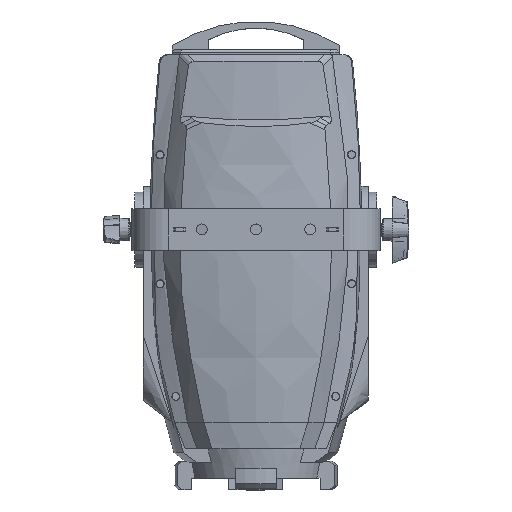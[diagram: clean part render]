
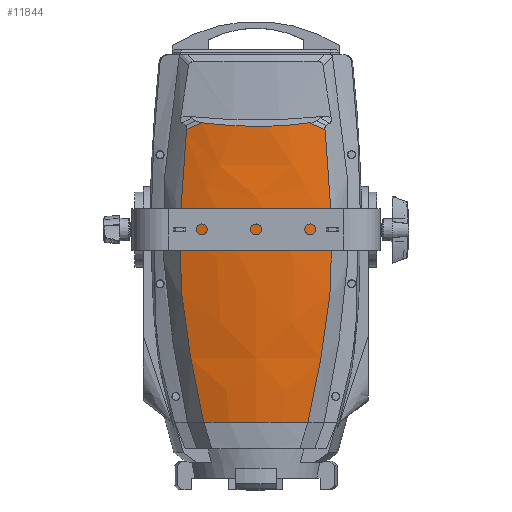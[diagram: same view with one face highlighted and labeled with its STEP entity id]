
A CAD part, top view. The second image highlights one B-rep face of the part: STEP entity #11844.
In plain terms, the highlighted free-form (B-spline) face has degree [3, 3] with [10, 6] control points.
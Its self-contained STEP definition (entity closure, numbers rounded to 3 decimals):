
#200=B_SPLINE_SURFACE_WITH_KNOTS('',3,3,((#18623,#18624,#18625,#18626,#18627,
#18628),(#18629,#18630,#18631,#18632,#18633,#18634),(#18635,#18636,#18637,
#18638,#18639,#18640),(#18641,#18642,#18643,#18644,#18645,#18646),(#18647,
#18648,#18649,#18650,#18651,#18652),(#18653,#18654,#18655,#18656,#18657,
#18658),(#18659,#18660,#18661,#18662,#18663,#18664),(#18665,#18666,#18667,
#18668,#18669,#18670),(#18671,#18672,#18673,#18674,#18675,#18676),(#18677,
#18678,#18679,#18680,#18681,#18682)),.UNSPECIFIED.,.F.,.F.,.F.,(4,2,2,2,
4),(4,1,1,4),(0.,0.25,0.5,0.75,1.),(0.199,0.399,
0.643,1.),.UNSPECIFIED.);
#599=B_SPLINE_CURVE_WITH_KNOTS('',3,(#17101,#17102,#17103,#17104),
 .UNSPECIFIED.,.F.,.F.,(4,4),(0.,0.02),.UNSPECIFIED.);
#600=B_SPLINE_CURVE_WITH_KNOTS('',3,(#17106,#17107,#17108,#17109,#17110,
#17111,#17112,#17113,#17114,#17115),.UNSPECIFIED.,.F.,.F.,(4,1,1,1,1,1,
1,4),(0.521,0.554,0.57,0.579,
0.587,0.603,0.62,0.653),
 .UNSPECIFIED.);
#606=B_SPLINE_CURVE_WITH_KNOTS('',3,(#17173,#17174,#17175,#17176),
 .UNSPECIFIED.,.F.,.F.,(4,4),(0.,0.02),
 .UNSPECIFIED.);
#691=B_SPLINE_CURVE_WITH_KNOTS('',3,(#18612,#18613,#18614,#18615,#18616,
#18617),.UNSPECIFIED.,.F.,.F.,(4,1,1,4),(0.,0.399,0.643,
1.),.UNSPECIFIED.);
#692=B_SPLINE_CURVE_WITH_KNOTS('',3,(#18619,#18620,#18621,#18622),
 .UNSPECIFIED.,.F.,.F.,(4,4),(0.222,0.233),
 .UNSPECIFIED.);
#693=B_SPLINE_CURVE_WITH_KNOTS('',3,(#18683,#18684,#18685,#18686),
 .UNSPECIFIED.,.F.,.F.,(4,4),(0.222,0.233),
 .UNSPECIFIED.);
#694=B_SPLINE_CURVE_WITH_KNOTS('',3,(#18690,#18691,#18692,#18693,#18694,
#18695),.UNSPECIFIED.,.F.,.F.,(4,1,1,4),(0.,0.399,0.643,
1.),.UNSPECIFIED.);
#1389=CIRCLE('',#12838,221.514);
#2306=ORIENTED_EDGE('',*,*,#5735,.T.);
#2307=ORIENTED_EDGE('',*,*,#5601,.T.);
#2308=ORIENTED_EDGE('',*,*,#5594,.T.);
#2309=ORIENTED_EDGE('',*,*,#5593,.T.);
#2310=ORIENTED_EDGE('',*,*,#5734,.F.);
#2311=ORIENTED_EDGE('',*,*,#5733,.T.);
#2312=ORIENTED_EDGE('',*,*,#5736,.T.);
#2313=ORIENTED_EDGE('',*,*,#5737,.F.);
#5593=EDGE_CURVE('',#7365,#7366,#599,.T.);
#5594=EDGE_CURVE('',#7367,#7365,#600,.F.);
#5601=EDGE_CURVE('',#7372,#7367,#606,.T.);
#5733=EDGE_CURVE('',#7454,#7453,#691,.T.);
#5734=EDGE_CURVE('',#7454,#7366,#692,.F.);
#5735=EDGE_CURVE('',#7455,#7372,#693,.F.);
#5736=EDGE_CURVE('',#7453,#7456,#1389,.F.);
#5737=EDGE_CURVE('',#7455,#7456,#694,.T.);
#7365=VERTEX_POINT('',#17092);
#7366=VERTEX_POINT('',#17100);
#7367=VERTEX_POINT('',#17116);
#7372=VERTEX_POINT('',#17168);
#7453=VERTEX_POINT('',#18611);
#7454=VERTEX_POINT('',#18618);
#7455=VERTEX_POINT('',#18687);
#7456=VERTEX_POINT('',#18689);
#9774=EDGE_LOOP('',(#2306,#2307,#2308,#2309,#2310,#2311,#2312,#2313));
#10673=FACE_BOUND('',#9774,.T.);
#11844=ADVANCED_FACE('',(#10673),#200,.F.);
#12838=AXIS2_PLACEMENT_3D('',#18688,#14108,#14109);
#14108=DIRECTION('',(0.,-1.,0.));
#14109=DIRECTION('',(-1.,0.,0.));
#17092=CARTESIAN_POINT('',(-64.704,38.27,103.388));
#17100=CARTESIAN_POINT('',(-82.948,30.045,99.067));
#17101=CARTESIAN_POINT('',(-64.704,38.27,103.388));
#17102=CARTESIAN_POINT('',(-70.733,35.304,102.174));
#17103=CARTESIAN_POINT('',(-76.821,32.551,100.737));
#17104=CARTESIAN_POINT('',(-82.948,30.045,99.067));
#17106=CARTESIAN_POINT('',(-64.704,38.27,103.388));
#17107=CARTESIAN_POINT('',(-54.18,36.799,105.936));
#17108=CARTESIAN_POINT('',(-38.197,35.144,108.803));
#17109=CARTESIAN_POINT('',(-19.202,34.166,110.497));
#17110=CARTESIAN_POINT('',(-8.254,33.884,110.985));
#17111=CARTESIAN_POINT('',(2.785,33.79,111.149));
#17112=CARTESIAN_POINT('',(16.486,34.027,110.738));
#17113=CARTESIAN_POINT('',(38.162,35.142,108.807));
#17114=CARTESIAN_POINT('',(54.159,36.796,105.941));
#17115=CARTESIAN_POINT('',(64.704,38.27,103.388));
#17116=CARTESIAN_POINT('',(64.704,38.27,103.388));
#17168=CARTESIAN_POINT('',(82.948,30.045,99.067));
#17173=CARTESIAN_POINT('',(82.948,30.045,99.067));
#17174=CARTESIAN_POINT('',(76.821,32.551,100.737));
#17175=CARTESIAN_POINT('',(70.733,35.304,102.174));
#17176=CARTESIAN_POINT('',(64.704,38.27,103.388));
#18611=CARTESIAN_POINT('',(-62.5,-321.,91.));
#18612=CARTESIAN_POINT('',(-70.,130.,95.));
#18613=CARTESIAN_POINT('',(-78.265,70.,97.638));
#18614=CARTESIAN_POINT('',(-91.581,-26.666,101.887));
#18615=CARTESIAN_POINT('',(-92.931,-177.003,100.774));
#18616=CARTESIAN_POINT('',(-73.841,-267.334,94.643));
#18617=CARTESIAN_POINT('',(-62.5,-321.,91.));
#18618=CARTESIAN_POINT('',(-83.512,25.,99.236));
#18619=CARTESIAN_POINT('',(-82.948,30.045,99.067));
#18620=CARTESIAN_POINT('',(-83.138,28.363,99.124));
#18621=CARTESIAN_POINT('',(-83.326,26.682,99.18));
#18622=CARTESIAN_POINT('',(-83.512,25.,99.236));
#18623=CARTESIAN_POINT('',(-81.748,40.426,98.702));
#18624=CARTESIAN_POINT('',(-85.304,10.284,99.789));
#18625=CARTESIAN_POINT('',(-91.85,-56.524,101.666));
#18626=CARTESIAN_POINT('',(-92.931,-177.003,100.774));
#18627=CARTESIAN_POINT('',(-73.841,-267.334,94.643));
#18628=CARTESIAN_POINT('',(-62.5,-321.,91.));
#18629=CARTESIAN_POINT('',(-68.512,40.426,102.677));
#18630=CARTESIAN_POINT('',(-71.494,10.284,103.95));
#18631=CARTESIAN_POINT('',(-76.974,-56.524,106.112));
#18632=CARTESIAN_POINT('',(-77.777,-177.003,104.717));
#18633=CARTESIAN_POINT('',(-61.838,-267.334,97.981));
#18634=CARTESIAN_POINT('',(-52.369,-321.,93.98));
#18635=CARTESIAN_POINT('',(-54.985,40.426,105.685));
#18636=CARTESIAN_POINT('',(-57.38,10.284,107.099));
#18637=CARTESIAN_POINT('',(-61.775,-56.524,109.477));
#18638=CARTESIAN_POINT('',(-62.372,-177.003,107.693));
#18639=CARTESIAN_POINT('',(-49.608,-267.334,100.504));
#18640=CARTESIAN_POINT('',(-42.025,-321.,96.233));
#18641=CARTESIAN_POINT('',(-27.639,40.426,109.703));
#18642=CARTESIAN_POINT('',(-28.844,10.284,111.305));
#18643=CARTESIAN_POINT('',(-31.051,-56.524,113.97));
#18644=CARTESIAN_POINT('',(-31.312,-177.003,111.667));
#18645=CARTESIAN_POINT('',(-24.918,-267.334,103.874));
#18646=CARTESIAN_POINT('',(-21.12,-321.,99.244));
#18647=CARTESIAN_POINT('',(-13.82,40.426,110.713));
#18648=CARTESIAN_POINT('',(-14.422,10.284,112.362));
#18649=CARTESIAN_POINT('',(-15.525,-56.524,115.099));
#18650=CARTESIAN_POINT('',(-15.656,-177.003,112.664));
#18651=CARTESIAN_POINT('',(-12.459,-267.334,104.72));
#18652=CARTESIAN_POINT('',(-10.56,-321.,100.));
#18653=CARTESIAN_POINT('',(13.82,40.426,110.713));
#18654=CARTESIAN_POINT('',(14.422,10.284,112.362));
#18655=CARTESIAN_POINT('',(15.525,-56.524,115.099));
#18656=CARTESIAN_POINT('',(15.656,-177.003,112.664));
#18657=CARTESIAN_POINT('',(12.459,-267.334,104.72));
#18658=CARTESIAN_POINT('',(10.56,-321.,100.));
#18659=CARTESIAN_POINT('',(27.639,40.426,109.703));
#18660=CARTESIAN_POINT('',(28.844,10.284,111.305));
#18661=CARTESIAN_POINT('',(31.051,-56.524,113.97));
#18662=CARTESIAN_POINT('',(31.312,-177.003,111.667));
#18663=CARTESIAN_POINT('',(24.918,-267.334,103.874));
#18664=CARTESIAN_POINT('',(21.12,-321.,99.244));
#18665=CARTESIAN_POINT('',(54.985,40.426,105.685));
#18666=CARTESIAN_POINT('',(57.38,10.284,107.099));
#18667=CARTESIAN_POINT('',(61.775,-56.524,109.477));
#18668=CARTESIAN_POINT('',(62.372,-177.003,107.693));
#18669=CARTESIAN_POINT('',(49.608,-267.334,100.504));
#18670=CARTESIAN_POINT('',(42.025,-321.,96.233));
#18671=CARTESIAN_POINT('',(68.512,40.426,102.677));
#18672=CARTESIAN_POINT('',(71.494,10.284,103.95));
#18673=CARTESIAN_POINT('',(76.974,-56.524,106.112));
#18674=CARTESIAN_POINT('',(77.777,-177.003,104.717));
#18675=CARTESIAN_POINT('',(61.838,-267.334,97.981));
#18676=CARTESIAN_POINT('',(52.369,-321.,93.98));
#18677=CARTESIAN_POINT('',(81.748,40.426,98.702));
#18678=CARTESIAN_POINT('',(85.304,10.284,99.789));
#18679=CARTESIAN_POINT('',(91.85,-56.524,101.666));
#18680=CARTESIAN_POINT('',(92.931,-177.003,100.774));
#18681=CARTESIAN_POINT('',(73.841,-267.334,94.643));
#18682=CARTESIAN_POINT('',(62.5,-321.,91.));
#18683=CARTESIAN_POINT('',(82.948,30.045,99.067));
#18684=CARTESIAN_POINT('',(83.138,28.363,99.124));
#18685=CARTESIAN_POINT('',(83.326,26.682,99.18));
#18686=CARTESIAN_POINT('',(83.512,25.,99.236));
#18687=CARTESIAN_POINT('',(83.512,25.,99.236));
#18688=CARTESIAN_POINT('',(0.,-321.,-121.514));
#18689=CARTESIAN_POINT('',(62.5,-321.,91.));
#18690=CARTESIAN_POINT('',(70.,130.,95.));
#18691=CARTESIAN_POINT('',(78.265,70.,97.638));
#18692=CARTESIAN_POINT('',(91.581,-26.666,101.887));
#18693=CARTESIAN_POINT('',(92.931,-177.003,100.774));
#18694=CARTESIAN_POINT('',(73.841,-267.334,94.643));
#18695=CARTESIAN_POINT('',(62.5,-321.,91.));
